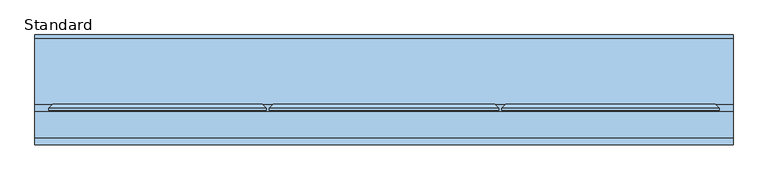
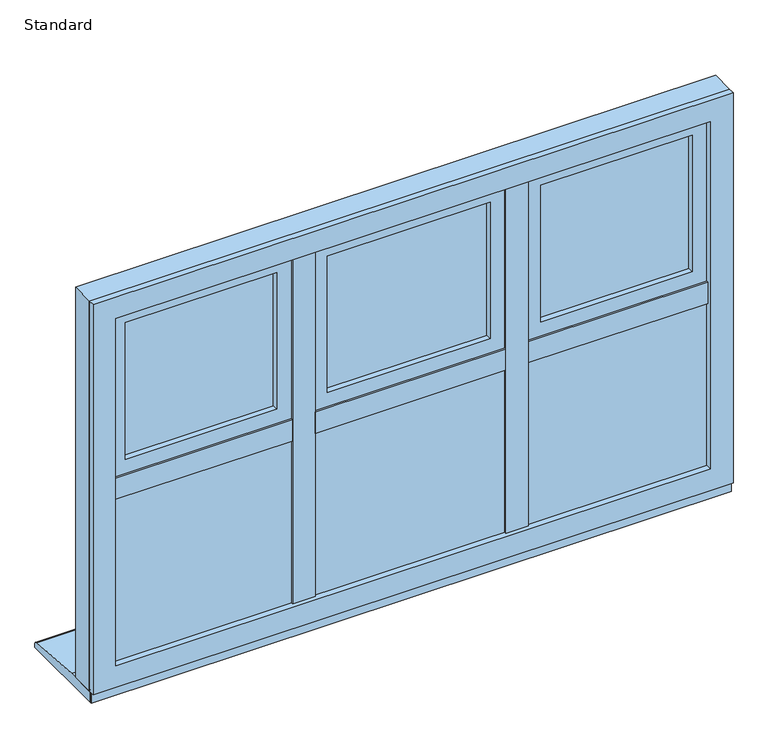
"""IFC4 building model written with IfcOpenShell, lengths in millimetres: window geometry, SMARTS_Alitherm600 : Standard."""

from ifc_helpers import new_model, si_unit, point, frame, frame_2d, origin, place, context, project, spatial, polyline, circle_curve, trimmed, segment, composite_curve, outline, extrude, faceted_brep, source, transform, mapped, element, save


def standard_2f744673(model_context):
    return source(origin(), model_context, "Body", "SolidModel", [
        extrude(outline(polyline([(-256.0666667, 102.8298432), (-237.2666667, 102.8298432), (-237.2666667, 47.2458572), (-256.0666667, 47.2458572), (-256.0666667, 102.8298432)])), frame((0.0, 0.0, 670.8979117), z_axis=(0.0, 0.0, 1.0), x_axis=(1.0, 0.0, 0.0)), (0.0, 0.0, 1.0), 883.2041766),
        extrude(outline(polyline([(-272.568755, 47.2458572), (-220.7645784, 47.2458572), (-220.7645784, 43.2798432), (-272.568755, 43.2798432), (-272.568755, 47.2458572)])), frame((0.0, 0.0, 687.4), z_axis=(0.0, 0.0, 1.0), x_axis=(1.0, 0.0, 0.0)), (0.0, 0.0, 1.0), 850.2),
        extrude(outline(polyline([(237.2666667, 102.8298432), (256.0666667, 102.8298432), (256.0666667, 47.2458572), (237.2666667, 47.2458572), (237.2666667, 102.8298432)])), frame((0.0, 0.0, 670.8979117), z_axis=(0.0, 0.0, 1.0), x_axis=(1.0, 0.0, 0.0)), (0.0, 0.0, 1.0), 883.2041766),
        extrude(outline(polyline([(220.7645784, 47.2458572), (272.568755, 47.2458572), (272.568755, 43.2798432), (220.7645784, 43.2798432), (220.7645784, 47.2458572)])), frame((0.0, 0.0, 687.4), z_axis=(0.0, 0.0, 1.0), x_axis=(1.0, 0.0, 0.0)), (0.0, 0.0, 1.0), 850.2),
        extrude(outline(polyline([(-256.1645784, 102.8298432), (-256.1645784, 47.2458572), (-704.1020883, 47.2458572), (-704.1020883, 102.8298432), (-256.1645784, 102.8298432)])), frame((0.0, 0.0, 1103.1), z_axis=(0.0, 0.0, 1.0), x_axis=(1.0, 0.0, 0.0)), (0.0, 0.0, 1.0), 18.8),
        extrude(outline(polyline([(-272.6666667, 47.2458572), (-272.6666667, 43.2798432), (-687.6, 43.2798432), (-687.6, 47.2458572), (-272.6666667, 47.2458572)])), frame((0.0, 0.0, 1086.5979117), z_axis=(0.0, 0.0, 1.0), x_axis=(1.0, 0.0, 0.0)), (0.0, 0.0, 1.0), 51.8041766),
        extrude(outline(polyline([(237.168755, 102.8298432), (237.168755, 47.2458572), (-237.168755, 47.2458572), (-237.168755, 102.8298432), (237.168755, 102.8298432)])), frame((0.0, 0.0, 1103.1), z_axis=(0.0, 0.0, 1.0), x_axis=(1.0, 0.0, 0.0)), (0.0, 0.0, 1.0), 18.8),
        extrude(outline(polyline([(220.6666667, 47.2458572), (220.6666667, 43.2798432), (-220.6666667, 43.2798432), (-220.6666667, 47.2458572), (220.6666667, 47.2458572)])), frame((0.0, 0.0, 1086.5979117), z_axis=(0.0, 0.0, 1.0), x_axis=(1.0, 0.0, 0.0)), (0.0, 0.0, 1.0), 51.8041766),
        extrude(outline(polyline([(704.1020883, 102.8298432), (704.1020883, 47.2458572), (256.1645784, 47.2458572), (256.1645784, 102.8298432), (704.1020883, 102.8298432)])), frame((0.0, 0.0, 1103.1), z_axis=(0.0, 0.0, 1.0), x_axis=(1.0, 0.0, 0.0)), (0.0, 0.0, 1.0), 18.8),
        extrude(outline(polyline([(687.6, 47.2458572), (687.6, 43.2798432), (272.6666667, 43.2798432), (272.6666667, 47.2458572), (687.6, 47.2458572)])), frame((0.0, 0.0, 1086.5979117), z_axis=(0.0, 0.0, 1.0), x_axis=(1.0, 0.0, 0.0)), (0.0, 0.0, 1.0), 51.8041766),
        extrude(outline(polyline([(-702.6, 77.7798432), (-257.6666667, 77.7798432), (-257.6666667, 73.7798432), (-702.6, 73.7798432), (-702.6, 77.7798432)])), frame((0.0, 0.0, 672.4), z_axis=(0.0, 0.0, 1.0), x_axis=(1.0, 0.0, 0.0)), (0.0, 0.0, 1.0), 429.1),
        extrude(outline(polyline([(-702.6, 57.7798432), (-257.6666667, 57.7798432), (-257.6666667, 53.7798432), (-702.6, 53.7798432), (-702.6, 57.7798432)])), frame((0.0, 0.0, 672.4), z_axis=(0.0, 0.0, 1.0), x_axis=(1.0, 0.0, 0.0)), (0.0, 0.0, 1.0), 429.1),
        extrude(outline(polyline([(1101.5, -702.6), (672.4, -702.6), (672.4, -257.6666667), (1101.5, -257.6666667), (1101.5, -702.6)]), holes=[polyline([(1091.5, -267.6666667), (682.4, -267.6666667), (682.4, -692.6), (1091.5, -692.6), (1091.5, -267.6666667)])]), frame((0.0, 57.7798432, 0.0), z_axis=(0.0, 1.0, 0.0), x_axis=(0.0, 0.0, 1.0)), (0.0, 0.0, 1.0), 16.0),
        faceted_brep([(-699.4160653, 102.7798432, 1098.3160653), (-687.2339746, 81.6798432, 1086.1339746), (-687.2339746, 81.6798432, 687.7660254), (-699.4160653, 102.7798432, 675.5839347), (-273.0326921, 81.6798432, 687.7660254), (-260.8506014, 102.7798432, 675.5839347), (-273.0326921, 81.6798432, 1086.1339746), (-260.8506014, 102.7798432, 1098.3160653), (-256.1666667, 81.6798432, 1103.0), (-256.1666667, 102.7798432, 1103.0), (-704.1, 102.7798432, 1103.0), (-704.1, 81.6798432, 1103.0), (-704.1, 102.7798432, 670.9), (-704.1, 81.6798432, 670.9), (-256.1666667, 102.7798432, 670.9), (-256.1666667, 81.6798432, 670.9)], [[[0, 1, 2, 3]], [[3, 2, 4, 5]], [[5, 4, 6, 7]], [[7, 6, 1, 0]], [[8, 9, 10, 11]], [[11, 10, 12, 13]], [[13, 12, 14, 15]], [[9, 14, 12, 10], [0, 3, 5, 7]], [[15, 14, 9, 8]], [[11, 13, 15, 8], [6, 4, 2, 1]]]),
        extrude(outline(polyline([(1516.6, -666.6), (1159.5, -666.6), (1159.5, -293.6666667), (1516.6, -293.6666667), (1516.6, -666.6)]), holes=[polyline([(1506.6, -303.6666667), (1169.5, -303.6666667), (1169.5, -656.6), (1506.6, -656.6), (1506.6, -303.6666667)])]), frame((0.0, 72.3211351, 0.0), z_axis=(0.0, 1.0, 0.0), x_axis=(0.0, 0.0, 1.0)), (0.0, 0.0, 1.0), 16.0),
        extrude(outline(polyline([(-666.6, 92.3211351), (-293.6666667, 92.3211351), (-293.6666667, 88.3211351), (-666.6, 88.3211351), (-666.6, 92.3211351)])), frame((0.0, 0.0, 1159.5), z_axis=(0.0, 0.0, 1.0), x_axis=(1.0, 0.0, 0.0)), (0.0, 0.0, 1.0), 357.1),
        extrude(outline(polyline([(-666.6, 72.3211351), (-293.6666667, 72.3211351), (-293.6666667, 68.3211351), (-666.6, 68.3211351), (-666.6, 72.3211351)])), frame((0.0, 0.0, 1159.5), z_axis=(0.0, 0.0, 1.0), x_axis=(1.0, 0.0, 0.0)), (0.0, 0.0, 1.0), 357.1),
        faceted_brep([(-293.344552, 118.8818325, 1516.9221147), (-305.5266427, 97.7818325, 1504.740024), (-654.740024, 97.7818325, 1504.740024), (-666.9221147, 118.8818325, 1516.9221147), (-288.6606173, 97.7818325, 1521.6060494), (-288.6606173, 118.8818325, 1521.6060494), (-671.6060494, 118.8818325, 1521.6060494), (-671.6060494, 97.7818325, 1521.6060494), (-654.740024, 97.7818325, 1171.359976), (-666.9221147, 118.8818325, 1159.1778853), (-671.6060494, 118.8818325, 1154.4939506), (-671.6060494, 97.7818325, 1154.4939506), (-305.5266427, 97.7818325, 1171.359976), (-293.344552, 118.8818325, 1159.1778853), (-288.6606173, 118.8818325, 1154.4939506), (-288.6606173, 97.7818325, 1154.4939506)], [[[0, 1, 2, 3]], [[4, 5, 6, 7]], [[3, 2, 8, 9]], [[7, 6, 10, 11]], [[9, 8, 12, 13]], [[11, 10, 14, 15]], [[13, 12, 1, 0]], [[5, 14, 10, 6], [3, 9, 13, 0]], [[15, 14, 5, 4]], [[7, 11, 15, 4], [1, 12, 8, 2]]]),
        extrude(outline(polyline([(1132.652908, -693.447092), (1132.652908, -266.8195747), (1543.447092, -266.8195747), (1543.447092, -693.447092), (1132.652908, -693.447092)]), holes=[polyline([(1505.1, -655.1), (1505.1, -305.1666667), (1171.0, -305.1666667), (1171.0, -655.1), (1505.1, -655.1)])]), frame((0.0, 50.2798432, 0.0), z_axis=(0.0, 1.0, 0.0), x_axis=(0.0, 0.0, 1.0)), (0.0, 0.0, 1.0), 13.0853156),
        faceted_brep([(-671.6060494, 118.8818325, 1521.6060494), (-671.6060494, 63.3651588, 1521.6060494), (-671.6060494, 63.3651588, 1154.4939506), (-671.6060494, 118.8818325, 1154.4939506), (-288.6606173, 63.3651588, 1154.4939506), (-288.6606173, 118.8818325, 1154.4939506), (-288.6606173, 63.3651588, 1521.6060494), (-288.6606173, 118.8818325, 1521.6060494), (-710.3358988, 106.2818325, 1560.3358988), (-710.3358988, 110.3519831, 1560.3358988), (-710.3358988, 110.3519831, 1115.7641012), (-710.3358988, 106.2818325, 1115.7641012), (-249.9307679, 110.3519831, 1115.7641012), (-249.9307679, 106.2818325, 1115.7641012), (-249.9307679, 110.3519831, 1560.3358988), (-249.9307679, 106.2818325, 1560.3358988), (-693.7467657, 106.2818325, 1543.7467657), (-266.5199009, 106.2818325, 1543.7467657), (-266.5199009, 106.2818325, 1132.3532343), (-693.7467657, 106.2818325, 1132.3532343), (-701.8060494, 118.8818325, 1551.8060494), (-258.4606173, 118.8818325, 1551.8060494), (-258.4606173, 118.8818325, 1124.2939506), (-701.8060494, 118.8818325, 1124.2939506), (-693.7467657, 63.3651588, 1543.7467657), (-693.7467657, 63.3651588, 1132.3532343), (-266.5199009, 63.3651588, 1132.3532343), (-266.5199009, 63.3651588, 1543.7467657)], [[[0, 1, 2, 3]], [[3, 2, 4, 5]], [[5, 4, 6, 7]], [[7, 6, 1, 0]], [[8, 9, 10, 11]], [[11, 10, 12, 13]], [[13, 12, 14, 15]], [[11, 13, 15, 8], [16, 17, 18, 19]], [[15, 14, 9, 8]], [[20, 21, 22, 23], [3, 5, 7, 0]], [[24, 16, 19, 25]], [[25, 19, 18, 26]], [[26, 18, 17, 27]], [[25, 26, 27, 24], [1, 6, 4, 2]], [[27, 17, 16, 24]], [[9, 20, 23, 10]], [[10, 23, 22, 12]], [[12, 22, 21, 14]], [[14, 21, 20, 9]]]),
        extrude(outline(polyline([(-235.6666667, 77.7798432), (235.6666667, 77.7798432), (235.6666667, 73.7798432), (-235.6666667, 73.7798432), (-235.6666667, 77.7798432)])), frame((0.0, 0.0, 672.4), z_axis=(0.0, 0.0, 1.0), x_axis=(1.0, 0.0, 0.0)), (0.0, 0.0, 1.0), 429.1),
        extrude(outline(polyline([(-235.6666667, 57.7798432), (235.6666667, 57.7798432), (235.6666667, 53.7798432), (-235.6666667, 53.7798432), (-235.6666667, 57.7798432)])), frame((0.0, 0.0, 672.4), z_axis=(0.0, 0.0, 1.0), x_axis=(1.0, 0.0, 0.0)), (0.0, 0.0, 1.0), 429.1),
        extrude(outline(polyline([(1101.5, -235.6666667), (672.4, -235.6666667), (672.4, 235.6666667), (1101.5, 235.6666667), (1101.5, -235.6666667)]), holes=[polyline([(1091.5, 225.6666667), (682.4, 225.6666667), (682.4, -225.6666667), (1091.5, -225.6666667), (1091.5, 225.6666667)])]), frame((0.0, 57.7798432, 0.0), z_axis=(0.0, 1.0, 0.0), x_axis=(0.0, 0.0, 1.0)), (0.0, 0.0, 1.0), 16.0),
        faceted_brep([(-232.4827319, 102.7798432, 1098.3160653), (-220.3006413, 81.6798432, 1086.1339746), (-220.3006413, 81.6798432, 687.7660254), (-232.4827319, 102.7798432, 675.5839347), (220.3006413, 81.6798432, 687.7660254), (232.4827319, 102.7798432, 675.5839347), (220.3006413, 81.6798432, 1086.1339746), (232.4827319, 102.7798432, 1098.3160653), (237.1666667, 81.6798432, 1103.0), (237.1666667, 102.7798432, 1103.0), (-237.1666667, 102.7798432, 1103.0), (-237.1666667, 81.6798432, 1103.0), (-237.1666667, 102.7798432, 670.9), (-237.1666667, 81.6798432, 670.9), (237.1666667, 102.7798432, 670.9), (237.1666667, 81.6798432, 670.9)], [[[0, 1, 2, 3]], [[3, 2, 4, 5]], [[5, 4, 6, 7]], [[7, 6, 1, 0]], [[8, 9, 10, 11]], [[11, 10, 12, 13]], [[13, 12, 14, 15]], [[9, 14, 12, 10], [0, 3, 5, 7]], [[15, 14, 9, 8]], [[11, 13, 15, 8], [6, 4, 2, 1]]]),
        extrude(outline(polyline([(1516.6, -199.6666667), (1159.5, -199.6666667), (1159.5, 199.6666667), (1516.6, 199.6666667), (1516.6, -199.6666667)]), holes=[polyline([(1506.6, 189.6666667), (1169.5, 189.6666667), (1169.5, -189.6666667), (1506.6, -189.6666667), (1506.6, 189.6666667)])]), frame((0.0, 72.3211351, 0.0), z_axis=(0.0, 1.0, 0.0), x_axis=(0.0, 0.0, 1.0)), (0.0, 0.0, 1.0), 16.0),
        extrude(outline(polyline([(-199.6666667, 92.3211351), (199.6666667, 92.3211351), (199.6666667, 88.3211351), (-199.6666667, 88.3211351), (-199.6666667, 92.3211351)])), frame((0.0, 0.0, 1159.5), z_axis=(0.0, 0.0, 1.0), x_axis=(1.0, 0.0, 0.0)), (0.0, 0.0, 1.0), 357.1),
        extrude(outline(polyline([(-199.6666667, 72.3211351), (199.6666667, 72.3211351), (199.6666667, 68.3211351), (-199.6666667, 68.3211351), (-199.6666667, 72.3211351)])), frame((0.0, 0.0, 1159.5), z_axis=(0.0, 0.0, 1.0), x_axis=(1.0, 0.0, 0.0)), (0.0, 0.0, 1.0), 357.1),
        faceted_brep([(199.9887813, 118.8818325, 1516.9221147), (187.8066907, 97.7818325, 1504.740024), (-187.8066907, 97.7818325, 1504.740024), (-199.9887813, 118.8818325, 1516.9221147), (204.6727161, 97.7818325, 1521.6060494), (204.6727161, 118.8818325, 1521.6060494), (-204.6727161, 118.8818325, 1521.6060494), (-204.6727161, 97.7818325, 1521.6060494), (-187.8066907, 97.7818325, 1171.359976), (-199.9887813, 118.8818325, 1159.1778853), (-204.6727161, 118.8818325, 1154.4939506), (-204.6727161, 97.7818325, 1154.4939506), (187.8066907, 97.7818325, 1171.359976), (199.9887813, 118.8818325, 1159.1778853), (204.6727161, 118.8818325, 1154.4939506), (204.6727161, 97.7818325, 1154.4939506)], [[[0, 1, 2, 3]], [[4, 5, 6, 7]], [[3, 2, 8, 9]], [[7, 6, 10, 11]], [[9, 8, 12, 13]], [[11, 10, 14, 15]], [[13, 12, 1, 0]], [[5, 14, 10, 6], [3, 9, 13, 0]], [[15, 14, 5, 4]], [[7, 11, 15, 4], [1, 12, 8, 2]]]),
        extrude(outline(polyline([(1132.652908, -226.5137586), (1132.652908, 226.5137586), (1543.447092, 226.5137586), (1543.447092, -226.5137586), (1132.652908, -226.5137586)]), holes=[polyline([(1505.1, -188.1666667), (1505.1, 188.1666667), (1171.0, 188.1666667), (1171.0, -188.1666667), (1505.1, -188.1666667)])]), frame((0.0, 50.2798432, 0.0), z_axis=(0.0, 1.0, 0.0), x_axis=(0.0, 0.0, 1.0)), (0.0, 0.0, 1.0), 13.0853156),
        faceted_brep([(-204.6727161, 118.8818325, 1521.6060494), (-204.6727161, 63.3651588, 1521.6060494), (-204.6727161, 63.3651588, 1154.4939506), (-204.6727161, 118.8818325, 1154.4939506), (204.6727161, 63.3651588, 1154.4939506), (204.6727161, 118.8818325, 1154.4939506), (204.6727161, 63.3651588, 1521.6060494), (204.6727161, 118.8818325, 1521.6060494), (-243.4025655, 106.2818325, 1560.3358988), (-243.4025655, 110.3519831, 1560.3358988), (-243.4025655, 110.3519831, 1115.7641012), (-243.4025655, 106.2818325, 1115.7641012), (243.4025655, 110.3519831, 1115.7641012), (243.4025655, 106.2818325, 1115.7641012), (243.4025655, 110.3519831, 1560.3358988), (243.4025655, 106.2818325, 1560.3358988), (-226.8134324, 106.2818325, 1543.7467657), (226.8134324, 106.2818325, 1543.7467657), (226.8134324, 106.2818325, 1132.3532343), (-226.8134324, 106.2818325, 1132.3532343), (-234.8727161, 118.8818325, 1551.8060494), (234.8727161, 118.8818325, 1551.8060494), (234.8727161, 118.8818325, 1124.2939506), (-234.8727161, 118.8818325, 1124.2939506), (-226.8134324, 63.3651588, 1543.7467657), (-226.8134324, 63.3651588, 1132.3532343), (226.8134324, 63.3651588, 1132.3532343), (226.8134324, 63.3651588, 1543.7467657)], [[[0, 1, 2, 3]], [[3, 2, 4, 5]], [[5, 4, 6, 7]], [[7, 6, 1, 0]], [[8, 9, 10, 11]], [[11, 10, 12, 13]], [[13, 12, 14, 15]], [[11, 13, 15, 8], [16, 17, 18, 19]], [[15, 14, 9, 8]], [[20, 21, 22, 23], [3, 5, 7, 0]], [[24, 16, 19, 25]], [[25, 19, 18, 26]], [[26, 18, 17, 27]], [[25, 26, 27, 24], [1, 6, 4, 2]], [[27, 17, 16, 24]], [[9, 20, 23, 10]], [[10, 23, 22, 12]], [[12, 22, 21, 14]], [[14, 21, 20, 9]]]),
        extrude(outline(polyline([(257.6666667, 77.7798432), (702.6, 77.7798432), (702.6, 73.7798432), (257.6666667, 73.7798432), (257.6666667, 77.7798432)])), frame((0.0, 0.0, 672.4), z_axis=(0.0, 0.0, 1.0), x_axis=(1.0, 0.0, 0.0)), (0.0, 0.0, 1.0), 429.1),
        extrude(outline(polyline([(257.6666667, 57.7798432), (702.6, 57.7798432), (702.6, 53.7798432), (257.6666667, 53.7798432), (257.6666667, 57.7798432)])), frame((0.0, 0.0, 672.4), z_axis=(0.0, 0.0, 1.0), x_axis=(1.0, 0.0, 0.0)), (0.0, 0.0, 1.0), 429.1),
        extrude(outline(polyline([(1101.5, 257.6666667), (672.4, 257.6666667), (672.4, 702.6), (1101.5, 702.6), (1101.5, 257.6666667)]), holes=[polyline([(1091.5, 692.6), (682.4, 692.6), (682.4, 267.6666667), (1091.5, 267.6666667), (1091.5, 692.6)])]), frame((0.0, 57.7798432, 0.0), z_axis=(0.0, 1.0, 0.0), x_axis=(0.0, 0.0, 1.0)), (0.0, 0.0, 1.0), 16.0),
        faceted_brep([(260.8506014, 102.7798432, 1098.3160653), (273.0326921, 81.6798432, 1086.1339746), (273.0326921, 81.6798432, 687.7660254), (260.8506014, 102.7798432, 675.5839347), (687.2339746, 81.6798432, 687.7660254), (699.4160653, 102.7798432, 675.5839347), (687.2339746, 81.6798432, 1086.1339746), (699.4160653, 102.7798432, 1098.3160653), (704.1, 81.6798432, 1103.0), (704.1, 102.7798432, 1103.0), (256.1666667, 102.7798432, 1103.0), (256.1666667, 81.6798432, 1103.0), (256.1666667, 102.7798432, 670.9), (256.1666667, 81.6798432, 670.9), (704.1, 102.7798432, 670.9), (704.1, 81.6798432, 670.9)], [[[0, 1, 2, 3]], [[3, 2, 4, 5]], [[5, 4, 6, 7]], [[7, 6, 1, 0]], [[8, 9, 10, 11]], [[11, 10, 12, 13]], [[13, 12, 14, 15]], [[9, 14, 12, 10], [0, 3, 5, 7]], [[15, 14, 9, 8]], [[11, 13, 15, 8], [6, 4, 2, 1]]]),
        extrude(outline(polyline([(1590.0, 740.0), (1590.0, -740.0), (635.0, -740.0), (635.0, 740.0), (1590.0, 740.0)]), holes=[polyline([(670.85, 704.15), (670.85, -704.15), (1554.15, -704.15), (1554.15, 704.15), (670.85, 704.15)])]), frame((0.0, 47.2798427, 0.0), z_axis=(0.0, 1.0, 0.0), x_axis=(0.0, 0.0, 1.0)), (0.0, 0.0, 1.0), 55.5500006),
        extrude(outline(polyline([(1590.0, 740.0), (1590.0, -740.0), (635.0, -740.0), (635.0, 740.0), (1590.0, 740.0)]), holes=[polyline([(687.35, 687.65), (687.35, -687.65), (1537.65, -687.65), (1537.65, 687.65), (687.35, 687.65)])]), frame((0.0, 32.8298432, 0.0), z_axis=(0.0, 1.0, 0.0), x_axis=(0.0, 0.0, 1.0)), (0.0, 0.0, 1.0), 14.4499994),
        extrude(outline(polyline([(1516.6, 293.6666667), (1159.5, 293.6666667), (1159.5, 666.6), (1516.6, 666.6), (1516.6, 293.6666667)]), holes=[polyline([(1506.6, 656.6), (1169.5, 656.6), (1169.5, 303.6666667), (1506.6, 303.6666667), (1506.6, 656.6)])]), frame((0.0, 72.3211351, 0.0), z_axis=(0.0, 1.0, 0.0), x_axis=(0.0, 0.0, 1.0)), (0.0, 0.0, 1.0), 16.0),
        extrude(outline(polyline([(293.6666667, 92.3211351), (666.6, 92.3211351), (666.6, 88.3211351), (293.6666667, 88.3211351), (293.6666667, 92.3211351)])), frame((0.0, 0.0, 1159.5), z_axis=(0.0, 0.0, 1.0), x_axis=(1.0, 0.0, 0.0)), (0.0, 0.0, 1.0), 357.1),
        extrude(outline(polyline([(293.6666667, 72.3211351), (666.6, 72.3211351), (666.6, 68.3211351), (293.6666667, 68.3211351), (293.6666667, 72.3211351)])), frame((0.0, 0.0, 1159.5), z_axis=(0.0, 0.0, 1.0), x_axis=(1.0, 0.0, 0.0)), (0.0, 0.0, 1.0), 357.1),
        faceted_brep([(666.9221147, 118.8818325, 1516.9221147), (654.740024, 97.7818325, 1504.740024), (305.5266427, 97.7818325, 1504.740024), (293.344552, 118.8818325, 1516.9221147), (671.6060494, 97.7818325, 1521.6060494), (671.6060494, 118.8818325, 1521.6060494), (288.6606173, 118.8818325, 1521.6060494), (288.6606173, 97.7818325, 1521.6060494), (305.5266427, 97.7818325, 1171.359976), (293.344552, 118.8818325, 1159.1778853), (288.6606173, 118.8818325, 1154.4939506), (288.6606173, 97.7818325, 1154.4939506), (654.740024, 97.7818325, 1171.359976), (666.9221147, 118.8818325, 1159.1778853), (671.6060494, 118.8818325, 1154.4939506), (671.6060494, 97.7818325, 1154.4939506)], [[[0, 1, 2, 3]], [[4, 5, 6, 7]], [[3, 2, 8, 9]], [[7, 6, 10, 11]], [[9, 8, 12, 13]], [[11, 10, 14, 15]], [[13, 12, 1, 0]], [[5, 14, 10, 6], [3, 9, 13, 0]], [[15, 14, 5, 4]], [[7, 11, 15, 4], [1, 12, 8, 2]]]),
        extrude(outline(polyline([(1132.652908, 266.8195747), (1132.652908, 693.447092), (1543.447092, 693.447092), (1543.447092, 266.8195747), (1132.652908, 266.8195747)]), holes=[polyline([(1505.1, 305.1666667), (1505.1, 655.1), (1171.0, 655.1), (1171.0, 305.1666667), (1505.1, 305.1666667)])]), frame((0.0, 50.2798432, 0.0), z_axis=(0.0, 1.0, 0.0), x_axis=(0.0, 0.0, 1.0)), (0.0, 0.0, 1.0), 13.0853156),
        faceted_brep([(288.6606173, 118.8818325, 1521.6060494), (288.6606173, 63.3651588, 1521.6060494), (288.6606173, 63.3651588, 1154.4939506), (288.6606173, 118.8818325, 1154.4939506), (671.6060494, 63.3651588, 1154.4939506), (671.6060494, 118.8818325, 1154.4939506), (671.6060494, 63.3651588, 1521.6060494), (671.6060494, 118.8818325, 1521.6060494), (249.9307679, 106.2818325, 1560.3358988), (249.9307679, 110.3519831, 1560.3358988), (249.9307679, 110.3519831, 1115.7641012), (249.9307679, 106.2818325, 1115.7641012), (710.3358988, 110.3519831, 1115.7641012), (710.3358988, 106.2818325, 1115.7641012), (710.3358988, 110.3519831, 1560.3358988), (710.3358988, 106.2818325, 1560.3358988), (266.5199009, 106.2818325, 1543.7467657), (693.7467657, 106.2818325, 1543.7467657), (693.7467657, 106.2818325, 1132.3532343), (266.5199009, 106.2818325, 1132.3532343), (258.4606173, 118.8818325, 1551.8060494), (701.8060494, 118.8818325, 1551.8060494), (701.8060494, 118.8818325, 1124.2939506), (258.4606173, 118.8818325, 1124.2939506), (266.5199009, 63.3651588, 1543.7467657), (266.5199009, 63.3651588, 1132.3532343), (693.7467657, 63.3651588, 1132.3532343), (693.7467657, 63.3651588, 1543.7467657)], [[[0, 1, 2, 3]], [[3, 2, 4, 5]], [[5, 4, 6, 7]], [[7, 6, 1, 0]], [[8, 9, 10, 11]], [[11, 10, 12, 13]], [[13, 12, 14, 15]], [[11, 13, 15, 8], [16, 17, 18, 19]], [[15, 14, 9, 8]], [[20, 21, 22, 23], [3, 5, 7, 0]], [[24, 16, 19, 25]], [[25, 19, 18, 26]], [[26, 18, 17, 27]], [[25, 26, 27, 24], [1, 6, 4, 2]], [[27, 17, 16, 24]], [[9, 20, 23, 10]], [[10, 23, 22, 12]], [[12, 22, 21, 14]], [[14, 21, 20, 9]]]),
        extrude(outline(polyline([(740.0, 43.2798432), (740.0, 40.7798432), (-740.0, 40.7798432), (-740.0, 43.2798432), (740.0, 43.2798432)])), frame((0.0, 0.0, 610.0), z_axis=(0.0, 0.0, 1.0), x_axis=(1.0, 0.0, 0.0)), (0.0, 0.0, 1.0), 31.0),
        extrude(outline(composite_curve([segment(polyline([(265.7798432, 610.0), (43.2798432, 610.0), (43.2798432, 635.0), (118.7798432, 635.0), (258.4770891, 625.9276664)]), True, "CONTINUOUS"), segment(trimmed(circle_curve(frame_2d((257.7798432, 617.9581088)), 8.0), [point((258.4770891, 625.9276664))], [point((265.7798432, 617.9581088))], False, "CARTESIAN"), True, "CONTINUOUS"), segment(polyline([(265.7798432, 617.9581088), (265.7798432, 610.0)]), True, "CONTINUOUS")], self_intersect=False)), frame((-740.0, 0.0, 0.0), z_axis=(1.0, 0.0, 0.0), x_axis=(0.0, 1.0, 0.0)), (0.0, 0.0, 1.0), 1480.0),
    ])


if __name__ == "__main__":
    model = new_model("IFC4")
    model_context = context("Model", 3, world=origin())
    ifc_project = project(units=[si_unit("LENGTHUNIT", "METRE", prefix="MILLI")], contexts=[model_context])
    site = spatial("IfcSite", under=ifc_project)
    building = spatial("IfcBuilding", under=site)
    placement = place(None, origin())
    standard_shape = standard_2f744673(model_context)
    element("IfcWindow", 1, ObjectType="SMARTS_Alitherm600 : Standard", at=placement, inside=building, context=model_context, shape_type="MappedRepresentation", body=[
        mapped(standard_shape, transform((0.0, 0.0, 0.0), x_axis=(1.0, 0.0, 0.0), y_axis=(0.0, 1.0, 0.0), z_axis=(0.0, 0.0, 1.0))),
    ])
    save(model, "model.ifc")
